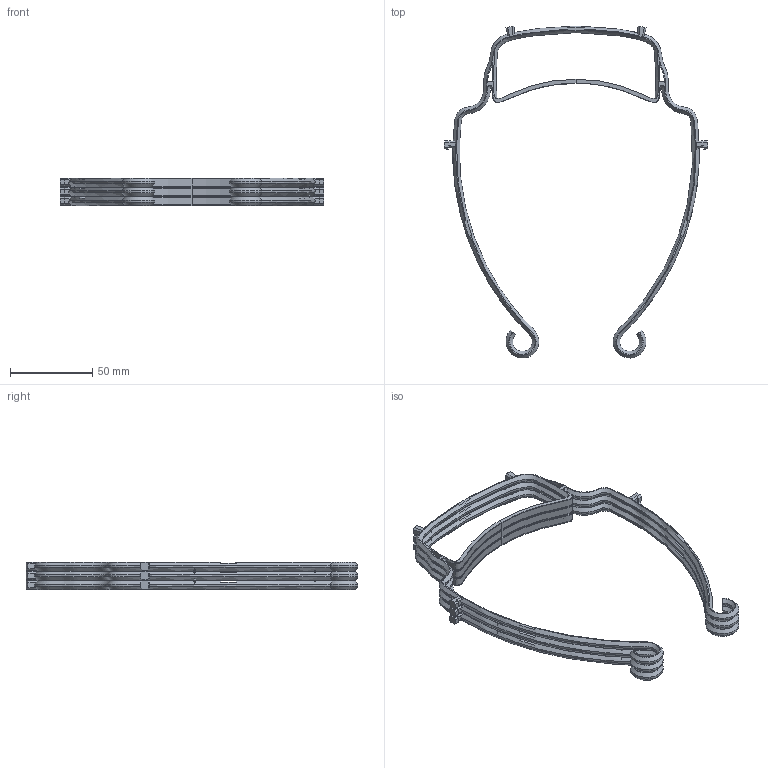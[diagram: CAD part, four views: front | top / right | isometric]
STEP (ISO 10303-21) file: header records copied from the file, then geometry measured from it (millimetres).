
FILE_DESCRIPTION(/* description */ (''),/* implementation_level */ '2;1');
FILE_NAME(/* name */ 'Medium_3Stack',/* time_stamp */ '2020-03-30T16:07:19+11:00',/* author */ (''),/* organization */ (''),/* preprocessor_version */ 'ST-DEVELOPER v16.5',/* originating_system */ '',/* authorisation */ '');
FILE_SCHEMA (('AUTOMOTIVE_DESIGN'));
Length unit declared in the file: millimetre
Products named in the file (1): Document
Bounding box: 160.28 x 202.01 x 17 mm (x, y, z)
Volume: 40006.9 mm3; surface area: 33230.8 mm2
Topology: 25 solids, 25 shells, 379 faces, 915 edges, 580 vertices
Faces by surface type: bspline 200, plane 179
Entity records: 18393 total; most frequent: CARTESIAN_POINT 12037, ORIENTED_EDGE 1830, EDGE_CURVE 915, B_SPLINE_CURVE_WITH_KNOTS 855, VERTEX_POINT 580, EDGE_LOOP 391, ADVANCED_FACE 379, FACE_OUTER_BOUND 379
